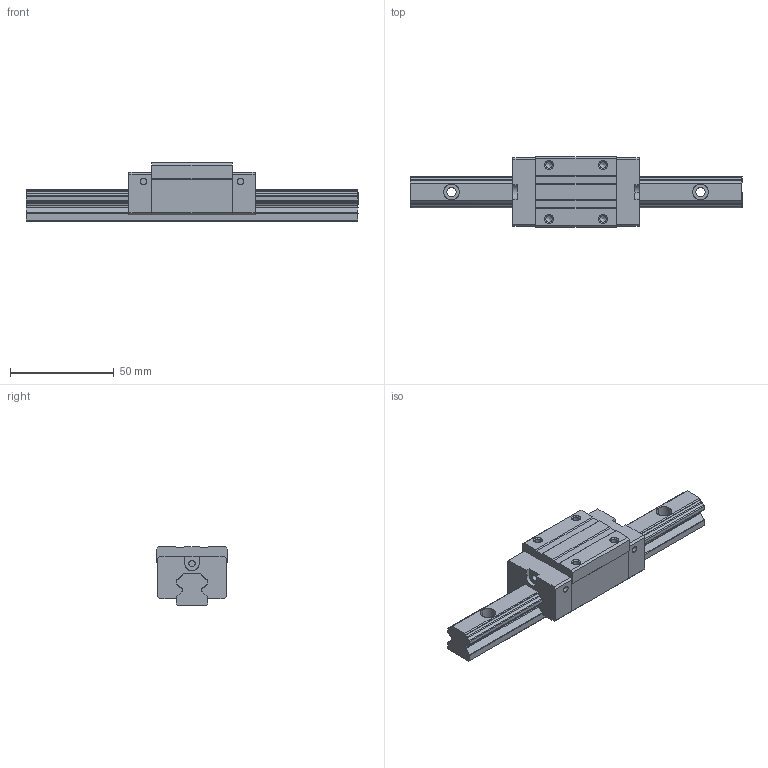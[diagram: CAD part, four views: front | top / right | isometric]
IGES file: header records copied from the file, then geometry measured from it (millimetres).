
Start section: Comment
Global section: file name: SBG15_SL0.igs; native system:  By Spatial Corp.; preprocessor: XPlus GENERIC/IGES 3.0; author: Author; organization: Title; date: 20070416.181330; units: inch
Bounding box: 160 x 34 x 28 mm (x, y, z)
Surface area: 23475 mm2 (no closed solid volume)
Topology: 0 solids, 0 shells, 246 faces, 1386 edges, 1378 vertices
Faces by surface type: bspline 246
